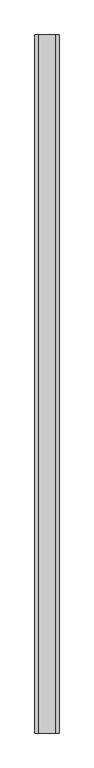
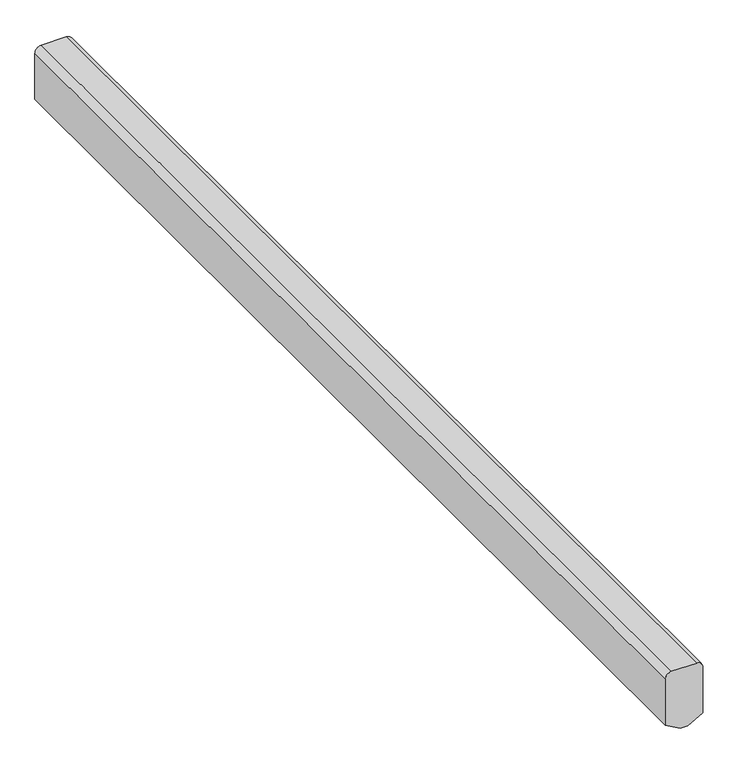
"""IFC4 building model written with IfcOpenShell, lengths in millimetres: railing geometry, Hedge 750mm High."""

from ifc_helpers import new_model, si_unit, point, frame, frame_2d, origin, place, context, project, spatial, polyline, circle_curve, trimmed, segment, composite_curve, outline, extrude, source, transform, mapped, element, save


def railing_f8a64039(model_context):
    return source(origin(), model_context, "Body", "SweptSolid", [
        extrude(outline(composite_curve([segment(polyline([(750.0, 41500.685164), (750.0, 41200.685164)]), True, "CONTINUOUS"), segment(trimmed(circle_curve(frame_2d((675.0, 41200.685164)), 75.0), [point((750.0, 41200.685164))], [point((675.0, 41125.685164))], False, "CARTESIAN"), True, "CONTINUOUS"), segment(polyline([(675.0, 41125.685164), (100.0, 41125.685164), (0.0, 41305.685164), (0.0, 41395.685164), (100.0, 41575.685164), (675.0, 41575.685164)]), True, "CONTINUOUS"), segment(trimmed(circle_curve(frame_2d((675.0, 41500.685164)), 75.0), [point((675.0, 41575.685164))], [point((750.0, 41500.685164))], False, "CARTESIAN"), True, "CONTINUOUS")], self_intersect=False)), frame((0.0, -56479.0868221, 0.0), z_axis=(0.0, 1.0, 0.0), x_axis=(0.0, 0.0, 1.0)), (0.0, 0.0, 1.0), 13000.0),
    ])


if __name__ == "__main__":
    model = new_model("IFC4")
    model_context = context("Model", 3, world=origin())
    ifc_project = project(units=[si_unit("LENGTHUNIT", "METRE", prefix="MILLI")], contexts=[model_context])
    site = spatial("IfcSite", under=ifc_project)
    building = spatial("IfcBuilding", under=site)
    placement = place(None, origin())
    railing_shape = railing_f8a64039(model_context)
    element("IfcRailing", 1, ObjectType="Hedge 750mm High", at=placement, inside=building, context=model_context, shape_type="MappedRepresentation", body=[
        mapped(railing_shape, transform((0.0, 0.0, 0.0), x_axis=(1.0, 0.0, 0.0), y_axis=(0.0, 1.0, 0.0), z_axis=(0.0, 0.0, 1.0))),
    ])
    save(model, "model.ifc")
